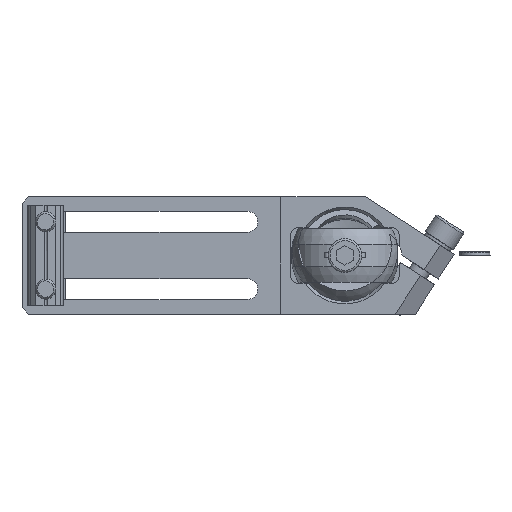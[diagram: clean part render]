
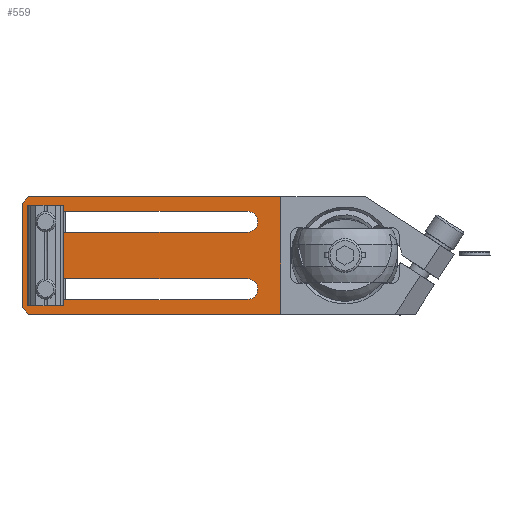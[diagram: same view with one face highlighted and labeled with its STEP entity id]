
A CAD part, left-side view. The second image highlights one B-rep face of the part: STEP entity #559.
In plain terms, the highlighted planar face has unit normal (-1, 0, 0).
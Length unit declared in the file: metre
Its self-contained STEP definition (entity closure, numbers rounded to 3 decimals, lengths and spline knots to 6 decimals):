
#559 = ADVANCED_FACE( '', ( #1578, #1579, #1580 ), #1581, .F. );
#1578 = FACE_OUTER_BOUND( '', #3137, .T. );
#1579 = FACE_BOUND( '', #3138, .T. );
#1580 = FACE_BOUND( '', #3139, .T. );
#1581 = PLANE( '', #3140 );
#3137 = EDGE_LOOP( '', ( #5014, #5015, #5016, #5017, #5018, #5019 ) );
#3138 = EDGE_LOOP( '', ( #5020, #5021, #5022, #5023 ) );
#3139 = EDGE_LOOP( '', ( #5024, #5025, #5026, #5027 ) );
#3140 = AXIS2_PLACEMENT_3D( '', #5028, #5029, #5030 );
#5014 = ORIENTED_EDGE( '', *, *, #11177, .F. );
#5015 = ORIENTED_EDGE( '', *, *, #11199, .T. );
#5016 = ORIENTED_EDGE( '', *, *, #11141, .F. );
#5017 = ORIENTED_EDGE( '', *, *, #11161, .T. );
#5018 = ORIENTED_EDGE( '', *, *, #11198, .T. );
#5019 = ORIENTED_EDGE( '', *, *, #11220, .F. );
#5020 = ORIENTED_EDGE( '', *, *, #11221, .T. );
#5021 = ORIENTED_EDGE( '', *, *, #11205, .T. );
#5022 = ORIENTED_EDGE( '', *, *, #11222, .T. );
#5023 = ORIENTED_EDGE( '', *, *, #11223, .T. );
#5024 = ORIENTED_EDGE( '', *, *, #11224, .F. );
#5025 = ORIENTED_EDGE( '', *, *, #11202, .T. );
#5026 = ORIENTED_EDGE( '', *, *, #11225, .F. );
#5027 = ORIENTED_EDGE( '', *, *, #11226, .T. );
#5028 = CARTESIAN_POINT( '', ( 0., 0.096, 0.0325 ) );
#5029 = DIRECTION( '', ( 1., 0., 0. ) );
#5030 = DIRECTION( '', ( 0., 1., 0. ) );
#11141 = EDGE_CURVE( '', #13323, #13324, #13325, .T. );
#11161 = EDGE_CURVE( '', #13323, #13356, #13358, .F. );
#11177 = EDGE_CURVE( '', #13382, #13384, #13385, .T. );
#11198 = EDGE_CURVE( '', #13356, #13414, #13416, .T. );
#11199 = EDGE_CURVE( '', #13382, #13324, #13417, .F. );
#11202 = EDGE_CURVE( '', #13418, #13420, #13422, .T. );
#11205 = EDGE_CURVE( '', #13426, #13424, #13427, .T. );
#11220 = EDGE_CURVE( '', #13384, #13414, #13447, .T. );
#11221 = EDGE_CURVE( '', #13448, #13426, #13449, .T. );
#11222 = EDGE_CURVE( '', #13424, #13450, #13451, .T. );
#11223 = EDGE_CURVE( '', #13450, #13448, #13452, .T. );
#11224 = EDGE_CURVE( '', #13418, #13453, #13454, .T. );
#11225 = EDGE_CURVE( '', #13455, #13420, #13456, .T. );
#11226 = EDGE_CURVE( '', #13455, #13453, #13457, .T. );
#13323 = VERTEX_POINT( '', #16738 );
#13324 = VERTEX_POINT( '', #16739 );
#13325 = LINE( '', #16740, #16741 );
#13356 = VERTEX_POINT( '', #16788 );
#13358 = LINE( '', #16791, #16792 );
#13382 = VERTEX_POINT( '', #16833 );
#13384 = VERTEX_POINT( '', #16836 );
#13385 = LINE( '', #16837, #16838 );
#13414 = VERTEX_POINT( '', #16880 );
#13416 = LINE( '', #16883, #16884 );
#13417 = LINE( '', #16885, #16886 );
#13418 = VERTEX_POINT( '', #16887 );
#13420 = VERTEX_POINT( '', #16890 );
#13422 = CIRCLE( '', #16893, 0.0031 );
#13424 = VERTEX_POINT( '', #16896 );
#13426 = VERTEX_POINT( '', #16899 );
#13427 = CIRCLE( '', #16900, 0.0031 );
#13447 = LINE( '', #16931, #16932 );
#13448 = VERTEX_POINT( '', #16933 );
#13449 = LINE( '', #16934, #16935 );
#13450 = VERTEX_POINT( '', #16936 );
#13451 = LINE( '', #16937, #16938 );
#13452 = CIRCLE( '', #16939, 0.0031 );
#13453 = VERTEX_POINT( '', #16940 );
#13454 = LINE( '', #16941, #16942 );
#13455 = VERTEX_POINT( '', #16943 );
#13456 = LINE( '', #16944, #16945 );
#13457 = CIRCLE( '', #16946, 0.0031 );
#16738 = CARTESIAN_POINT( '', ( 0., 0.096, -0.0155 ) );
#16739 = CARTESIAN_POINT( '', ( 0., 0.096, 0.0155 ) );
#16740 = CARTESIAN_POINT( '', ( 0., 0.096, -0.0175 ) );
#16741 = VECTOR( '', #21419, 1. );
#16788 = CARTESIAN_POINT( '', ( 0., 0.094, -0.0175 ) );
#16791 = CARTESIAN_POINT( '', ( 0., 0.096, -0.0155 ) );
#16792 = VECTOR( '', #21449, 1. );
#16833 = CARTESIAN_POINT( '', ( 0., 0.094, 0.0175 ) );
#16836 = CARTESIAN_POINT( '', ( 0., 0.019, 0.0175 ) );
#16837 = CARTESIAN_POINT( '', ( 0., 0.0415, 0.0175 ) );
#16838 = VECTOR( '', #21465, 1. );
#16880 = CARTESIAN_POINT( '', ( 0., 0.019, -0.0175 ) );
#16883 = CARTESIAN_POINT( '', ( 0., 0.096, -0.0175 ) );
#16884 = VECTOR( '', #21498, 1. );
#16885 = CARTESIAN_POINT( '', ( 0., 0.094, 0.0175 ) );
#16886 = VECTOR( '', #21499, 1. );
#16887 = CARTESIAN_POINT( '', ( 0., 0.089, -0.0131 ) );
#16890 = CARTESIAN_POINT( '', ( 0., 0.089, -0.0069 ) );
#16893 = AXIS2_PLACEMENT_3D( '', #21502, #21503, #21504 );
#16896 = CARTESIAN_POINT( '', ( 0., 0.089, 0.0131 ) );
#16899 = CARTESIAN_POINT( '', ( 0., 0.089, 0.0069 ) );
#16900 = AXIS2_PLACEMENT_3D( '', #21507, #21508, #21509 );
#16931 = CARTESIAN_POINT( '', ( 0., 0.019, 0.0325 ) );
#16932 = VECTOR( '', #21530, 1. );
#16933 = CARTESIAN_POINT( '', ( 0., 0.029, 0.0069 ) );
#16934 = CARTESIAN_POINT( '', ( 0., 0.096, 0.0069 ) );
#16935 = VECTOR( '', #21531, 1. );
#16936 = CARTESIAN_POINT( '', ( 0., 0.029, 0.0131 ) );
#16937 = CARTESIAN_POINT( '', ( 0., 0.096, 0.0131 ) );
#16938 = VECTOR( '', #21532, 1. );
#16939 = AXIS2_PLACEMENT_3D( '', #21533, #21534, #21535 );
#16940 = CARTESIAN_POINT( '', ( 0., 0.029, -0.0131 ) );
#16941 = CARTESIAN_POINT( '', ( 0., 0.096, -0.0131 ) );
#16942 = VECTOR( '', #21536, 1. );
#16943 = CARTESIAN_POINT( '', ( 0., 0.029, -0.0069 ) );
#16944 = CARTESIAN_POINT( '', ( 0., 0.096, -0.0069 ) );
#16945 = VECTOR( '', #21537, 1. );
#16946 = AXIS2_PLACEMENT_3D( '', #21538, #21539, #21540 );
#21419 = DIRECTION( '', ( 0., 0., 1. ) );
#21449 = DIRECTION( '', ( 0., 0.707, 0.707 ) );
#21465 = DIRECTION( '', ( 0., -1., 0. ) );
#21498 = DIRECTION( '', ( 0., -1., 0. ) );
#21499 = DIRECTION( '', ( 0., -0.707, 0.707 ) );
#21502 = CARTESIAN_POINT( '', ( 0., 0.089, -0.01 ) );
#21503 = DIRECTION( '', ( 1., 0., 0. ) );
#21504 = DIRECTION( '', ( 0., 1., 0. ) );
#21507 = CARTESIAN_POINT( '', ( 0., 0.089, 0.01 ) );
#21508 = DIRECTION( '', ( 1., 0., 0. ) );
#21509 = DIRECTION( '', ( 0., 1., 0. ) );
#21530 = DIRECTION( '', ( 0., 0., -1. ) );
#21531 = DIRECTION( '', ( 0., 1., 0. ) );
#21532 = DIRECTION( '', ( 0., -1., 0. ) );
#21533 = CARTESIAN_POINT( '', ( 0., 0.029, 0.01 ) );
#21534 = DIRECTION( '', ( 1., 0., 0. ) );
#21535 = DIRECTION( '', ( 0., 1., 0. ) );
#21536 = DIRECTION( '', ( 0., -1., 0. ) );
#21537 = DIRECTION( '', ( 0., 1., 0. ) );
#21538 = CARTESIAN_POINT( '', ( 0., 0.029, -0.01 ) );
#21539 = DIRECTION( '', ( 1., 0., 0. ) );
#21540 = DIRECTION( '', ( 0., 1., 0. ) );
